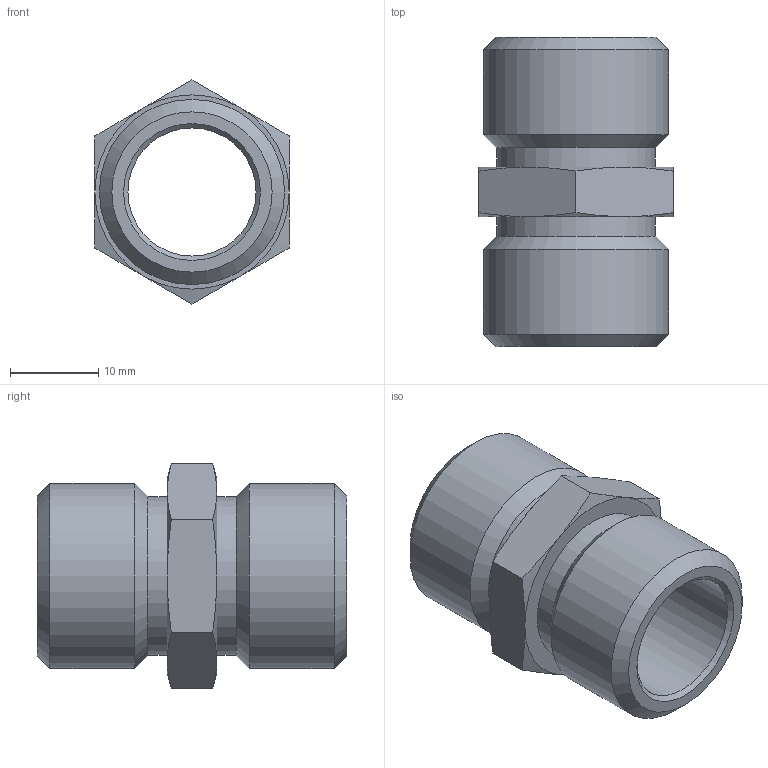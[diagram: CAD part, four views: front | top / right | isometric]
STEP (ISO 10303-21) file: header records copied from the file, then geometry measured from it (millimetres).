
FILE_DESCRIPTION(('STEP AP203'), '1');
FILE_NAME('ÂÐ.753137.062 - VTi.582.I.0404', '', ('UNSPECIFIED'), ('UNSPECIFIED'), 'C3D Converter', 'C3D Toolkit', '');
FILE_SCHEMA(('CONFIG_CONTROL_DESIGN'));
Length unit declared in the file: millimetre
Products named in the file (1): ВР.753137.062
Bounding box: 22 x 35 x 25.4 mm (x, y, z)
Volume: 6022.6 mm3; surface area: 4505.2 mm2
Topology: 1 solids, 1 shells, 33 faces, 78 edges, 51 vertices
Faces by surface type: cone 18, plane 10, cylinder 5
Full cylindrical faces by diameter (mm): 14.5 x1, 18 x2, 20.955 x2
Entity records: 1999 total; most frequent: CARTESIAN_POINT 1244, DIRECTION 144, ORIENTED_EDGE 114, AXIS2_PLACEMENT_3D 69, EDGE_CURVE 57, EDGE_LOOP 48, VERTEX_POINT 39, CIRCLE 35
